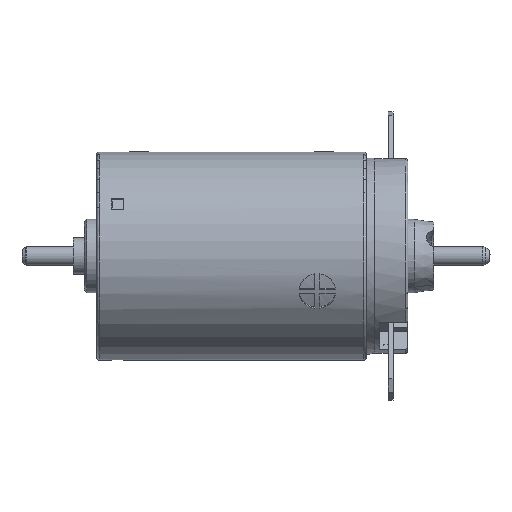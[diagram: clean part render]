
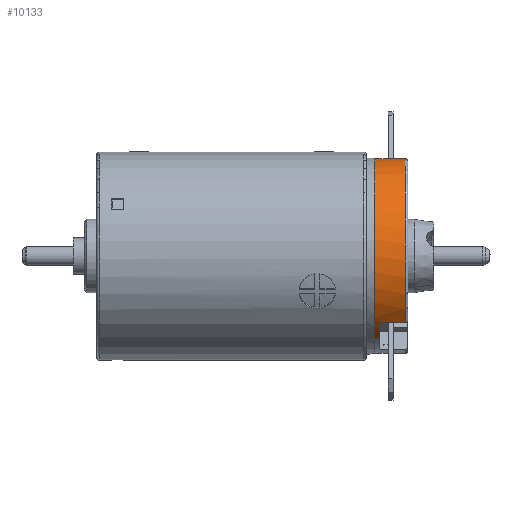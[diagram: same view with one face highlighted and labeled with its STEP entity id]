
A CAD part, top view. The second image highlights one B-rep face of the part: STEP entity #10133.
In plain terms, the highlighted cylindrical face has radius 7.95 mm (diameter 15.9 mm), a partial arc.
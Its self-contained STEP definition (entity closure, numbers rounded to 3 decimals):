
#339=CARTESIAN_POINT('',(21.3,0.,0.));
#340=DIRECTION('',(1.,0.,0.));
#341=DIRECTION('',(0.,0.848,-0.53));
#342=AXIS2_PLACEMENT_3D('',#339,#340,#341);
#362=CARTESIAN_POINT('',(21.7,0.,0.));
#363=DIRECTION('',(1.,0.,0.));
#364=DIRECTION('',(0.,-0.683,0.731));
#365=AXIS2_PLACEMENT_3D('',#362,#363,#364);
#370=CARTESIAN_POINT('',(21.7,0.,0.));
#371=DIRECTION('',(1.,0.,0.));
#372=DIRECTION('',(0.,0.848,-0.53));
#373=AXIS2_PLACEMENT_3D('',#370,#371,#372);
#399=DIRECTION('',(-1.,0.,0.));
#400=VECTOR('',#399,2.1);
#401=CARTESIAN_POINT('',(23.8,7.6,-2.332));
#402=LINE('',#401,#400);
#439=DIRECTION('',(1.,0.,0.));
#440=VECTOR('',#439,2.1);
#441=CARTESIAN_POINT('',(21.7,-5.428,5.809));
#442=LINE('',#441,#440);
#492=CARTESIAN_POINT('',(23.8,0.,0.));
#493=DIRECTION('',(-1.,0.,0.));
#494=DIRECTION('',(0.,-0.683,0.731));
#495=AXIS2_PLACEMENT_3D('',#492,#493,#494);
#1517=DIRECTION('',(-1.,0.,0.));
#1518=VECTOR('',#1517,0.4);
#1519=CARTESIAN_POINT('',(21.7,6.742,-4.213));
#1520=LINE('',#1519,#1518);
#1524=DIRECTION('',(-1.,0.,0.));
#1525=VECTOR('',#1524,0.4);
#1526=CARTESIAN_POINT('',(21.7,-6.742,4.213));
#1527=LINE('',#1526,#1525);
#1975=CARTESIAN_POINT('',(21.3,0.,0.));
#1976=DIRECTION('',(1.,0.,0.));
#1977=DIRECTION('',(0.,0.95,-0.312));
#1978=AXIS2_PLACEMENT_3D('',#1975,#1976,#1977);
#2984=CARTESIAN_POINT('',(21.3,0.,0.));
#2985=DIRECTION('',(1.,0.,0.));
#2986=DIRECTION('',(0.,0.998,-0.067));
#2987=AXIS2_PLACEMENT_3D('',#2984,#2985,#2986);
#2999=CARTESIAN_POINT('',(21.3,0.,0.));
#3000=DIRECTION('',(1.,0.,0.));
#3001=DIRECTION('',(0.,0.,1.));
#3002=AXIS2_PLACEMENT_3D('',#2999,#3000,#3001);
#9054=CARTESIAN_POINT('',(21.7,6.742,-4.213));
#9055=CARTESIAN_POINT('',(21.7,7.6,-2.332));
#9056=VERTEX_POINT('',#9054);
#9057=VERTEX_POINT('',#9055);
#9058=CARTESIAN_POINT('',(21.7,-5.428,5.809));
#9059=CARTESIAN_POINT('',(21.7,-6.742,4.213));
#9060=VERTEX_POINT('',#9058);
#9061=VERTEX_POINT('',#9059);
#9178=CARTESIAN_POINT('',(21.3,6.742,-4.213));
#9179=CARTESIAN_POINT('',(21.3,7.553,-2.481));
#9180=VERTEX_POINT('',#9178);
#9181=VERTEX_POINT('',#9179);
#9182=CARTESIAN_POINT('',(21.3,7.932,-0.53));
#9183=CARTESIAN_POINT('',(21.3,0.,7.95));
#9184=VERTEX_POINT('',#9182);
#9185=VERTEX_POINT('',#9183);
#9238=CARTESIAN_POINT('',(21.3,-6.742,4.213));
#9239=VERTEX_POINT('',#9238);
#9394=CARTESIAN_POINT('',(23.8,-5.428,5.809));
#9395=CARTESIAN_POINT('',(23.8,7.6,-2.332));
#9396=VERTEX_POINT('',#9394);
#9397=VERTEX_POINT('',#9395);
#10105=CARTESIAN_POINT('',(19.775,0.,0.));
#10106=DIRECTION('',(1.,0.,0.));
#10107=DIRECTION('',(0.,-0.848,0.53));
#10108=AXIS2_PLACEMENT_3D('',#10105,#10106,#10107);
#10109=CYLINDRICAL_SURFACE('',#10108,7.95);
#10111=ORIENTED_EDGE('',*,*,#10110,.F.);
#10113=ORIENTED_EDGE('',*,*,#10112,.F.);
#10115=ORIENTED_EDGE('',*,*,#10114,.F.);
#10117=ORIENTED_EDGE('',*,*,#10116,.T.);
#10119=ORIENTED_EDGE('',*,*,#10118,.T.);
#10121=ORIENTED_EDGE('',*,*,#10120,.F.);
#10123=ORIENTED_EDGE('',*,*,#10122,.F.);
#10125=ORIENTED_EDGE('',*,*,#10124,.F.);
#10126=ORIENTED_EDGE('',*,*,#10094,.F.);
#10128=ORIENTED_EDGE('',*,*,#10127,.F.);
#10130=ORIENTED_EDGE('',*,*,#10129,.T.);
#10131=EDGE_LOOP('',(#10111,#10113,#10115,#10117,#10119,#10121,#10123,#10125,
#10126,#10128,#10130));
#10132=FACE_OUTER_BOUND('',#10131,.F.);
#10133=ADVANCED_FACE('',(#10132),#10109,.T.);
#343=CIRCLE('',#342,7.95);
#366=CIRCLE('',#365,7.95);
#374=CIRCLE('',#373,7.95);
#496=CIRCLE('',#495,7.95);
#1979=CIRCLE('',#1978,7.95);
#2988=CIRCLE('',#2987,7.95);
#3003=CIRCLE('',#3002,7.95);
#10094=EDGE_CURVE('',#9180,#9181,#343,.T.);
#10110=EDGE_CURVE('',#9397,#9057,#402,.T.);
#10112=EDGE_CURVE('',#9396,#9397,#496,.T.);
#10114=EDGE_CURVE('',#9060,#9396,#442,.T.);
#10116=EDGE_CURVE('',#9060,#9061,#366,.T.);
#10118=EDGE_CURVE('',#9061,#9239,#1527,.T.);
#10120=EDGE_CURVE('',#9185,#9239,#3003,.T.);
#10122=EDGE_CURVE('',#9184,#9185,#2988,.T.);
#10124=EDGE_CURVE('',#9181,#9184,#1979,.T.);
#10127=EDGE_CURVE('',#9056,#9180,#1520,.T.);
#10129=EDGE_CURVE('',#9056,#9057,#374,.T.);
